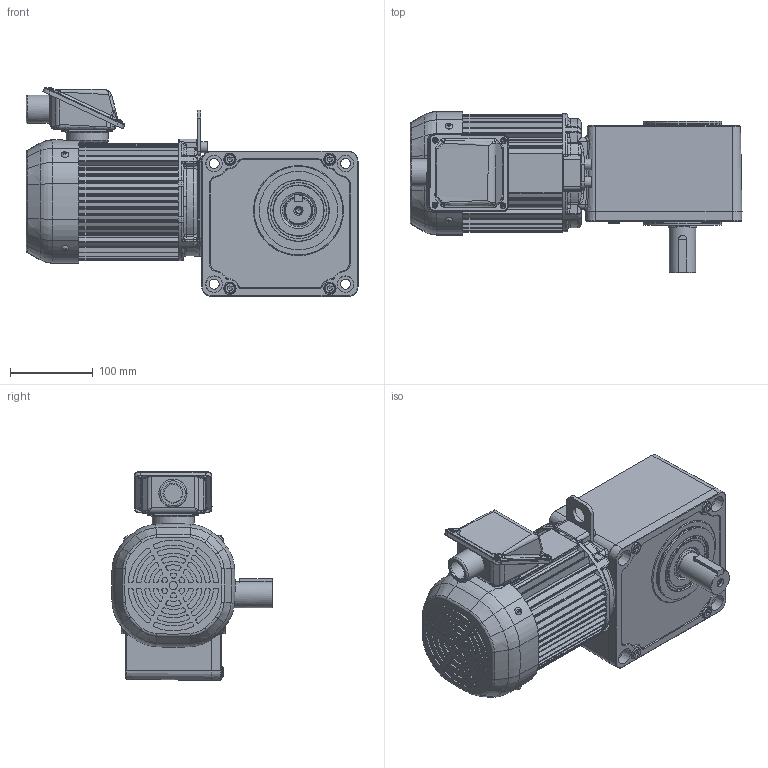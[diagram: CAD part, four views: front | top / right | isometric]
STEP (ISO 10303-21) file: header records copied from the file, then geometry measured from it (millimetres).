
FILE_DESCRIPTION( ( 'Unknown' ), '1' );
FILE_NAME( 'W:/gm/3D-WEB/GV-SHY/完成品/パーツ/完成品/完成品(GV-SHY_ﾌﾗﾝｼﾞ取付_1.5kW_ﾌﾞﾚｰｷ無_C_RR).stp', 'Unknown', ( 'Unknown' ), ( 'Unknown' ), 'PSStep 11.0', 'Unknown', ' ' );
FILE_SCHEMA( ( 'AUTOMOTIVE_DESIGN { 1 0 10303 214 1 1 1 1 }' ) );
Length unit declared in the file: millimetre
Products named in the file (7): P265322H10_ 衛偯枆參
Bounding box: 401.59 x 194.72 x 253.02 mm (x, y, z)
Volume: 5491391.8 mm3; surface area: 600511.2 mm2
Topology: 7 solids, 24 shells, 1705 faces, 4238 edges, 2677 vertices
Faces by surface type: cylinder 726, plane 654, bspline 118, cone 106, torus 93, sphere 8
Full cylindrical faces by diameter (mm): 3.8 x4, 4 x6, 4.2 x8, 4.5 x16, 5.5 x8, 5.8 x4, 6 x8, 6.647 x3, 7 x4, 8 x6, 8.2 x1, 8.8 x4, 10 x4, 12 x4, 13 x6, 15 x4, 20 x5, 22 x1, 23 x1, 24.117 x2, 25 x2, 32 x1, 34 x2, 34.1 x1, 40 x1, 48 x2, 50 x2, 50.1 x1, 51.2 x1, 54 x1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
Entity records: 79535 total; most frequent: CARTESIAN_POINT 26363, DIRECTION 8499, ORIENTED_EDGE 7842, EDGE_CURVE 3921, AXIS2_PLACEMENT_3D 3345, VERTEX_POINT 2595, EDGE_LOOP 2075, FACE_OUTER_BOUND 1862
